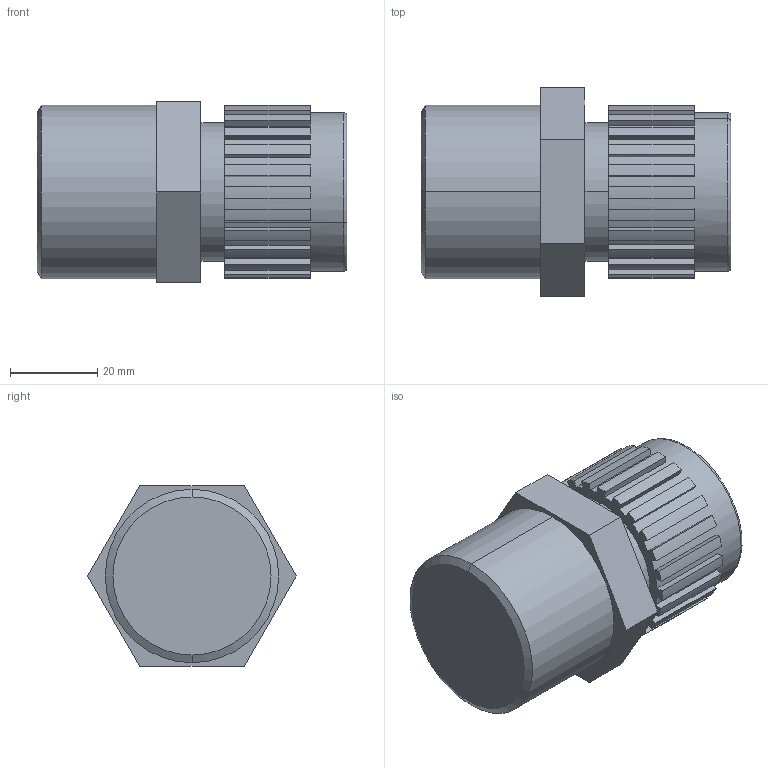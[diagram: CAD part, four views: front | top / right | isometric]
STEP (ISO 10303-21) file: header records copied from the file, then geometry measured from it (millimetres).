
FILE_DESCRIPTION (( 'STEP AP214' ), '1' );
FILE_NAME ('Fitting Pillar S-300 08.STEP', '2012-09-26T16:23:44', ( '' ), ( '' ), 'SwSTEP 2.0', 'SolidWorks 2012', '' );
FILE_SCHEMA (( 'AUTOMOTIVE_DESIGN' ));
Length unit declared in the file: inch
Products named in the file (1): Fitting Pillar S-300 08
Bounding box: 70.84 x 47.66 x 41.27 mm (x, y, z)
Volume: 81322.6 mm3; surface area: 14310.8 mm2
Topology: 1 solids, 1 shells, 122 faces, 342 edges, 226 vertices
Faces by surface type: plane 84, cylinder 32, torus 4, cone 2
Entity records: 4039 total; most frequent: DIRECTION 710, CARTESIAN_POINT 691, ORIENTED_EDGE 684, EDGE_CURVE 342, AXIS2_PLACEMENT_3D 245, VERTEX_POINT 226, LINE 220, VECTOR 220
